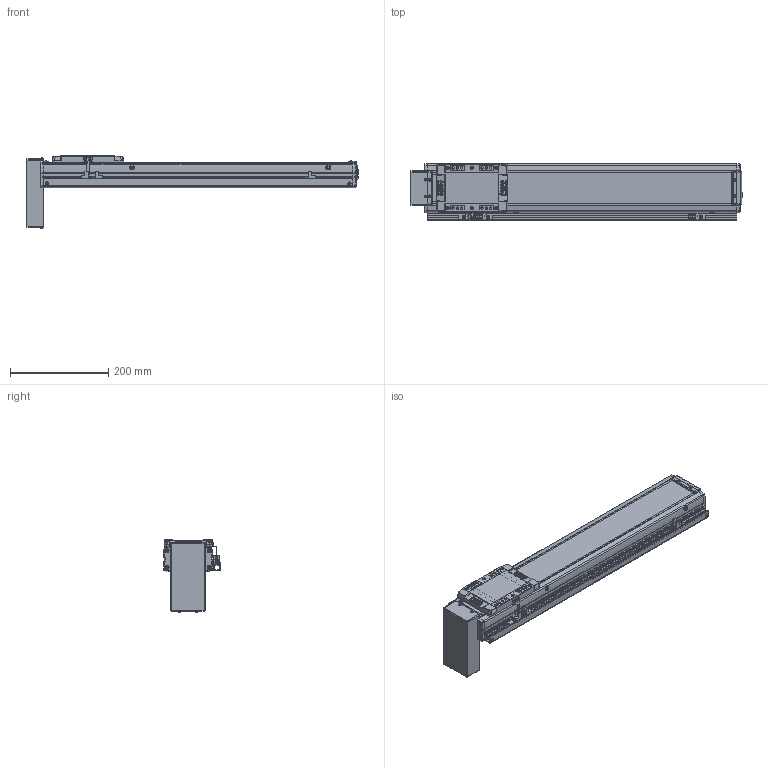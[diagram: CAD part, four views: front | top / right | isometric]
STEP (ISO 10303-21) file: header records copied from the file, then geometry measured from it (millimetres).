
FILE_DESCRIPTION(('STEP AP214'),'1');
FILE_NAME('Z:/Web/3D/SAN100/SAN100 양산용 (STEP)/SAN100ㅁㅁ-450PB+3SR.stp','2013-04-26T00:41:12',(' '),(' '),'Spatial InterOp 3D',' ',' ');
FILE_SCHEMA(('automotive_design'));
Length unit declared in the file: millimetre
Products named in the file (55): EE-SX674; SBK-SX674-352; 스크루 : Round - M3.0 x 6.0; M3.0 x 6.0; SRL-16x17-380L; SGD-SAN100; SUS COVER; SFX-SAN100; RRCV-SAN100; 스크루 : Round - M4.0 x 10.0; FRBL-SAN100; SLBL-SAN100; SLCV-SAN100; 스크루 : Countersunk - M3.0 x 6.0; BASE; 스크루 : Round - M5.0 x 6.0; BTCV-SAN100; FRCV-SAN100
Bounding box: 676.5 x 116 x 148.36 mm (x, y, z)
Volume: 2197629.5 mm3; surface area: 573560.4 mm2
Topology: 55 solids, 58 shells, 2517 faces, 6526 edges, 4227 vertices
Faces by surface type: plane 1364, cylinder 829, cone 210, sphere 72, torus 30, bspline 12
Entity records: 98790 total; most frequent: CARTESIAN_POINT 14407, DIRECTION 13811, ORIENTED_EDGE 12888, EDGE_CURVE 6444, AXIS2_PLACEMENT_3D 4900, VERTEX_POINT 4227, LINE 4011, VECTOR 4011
